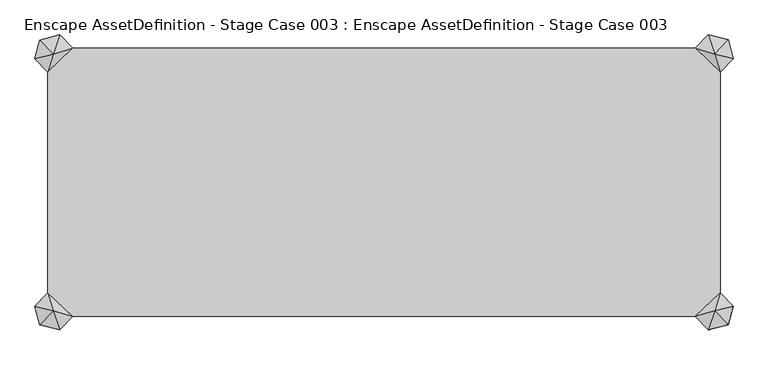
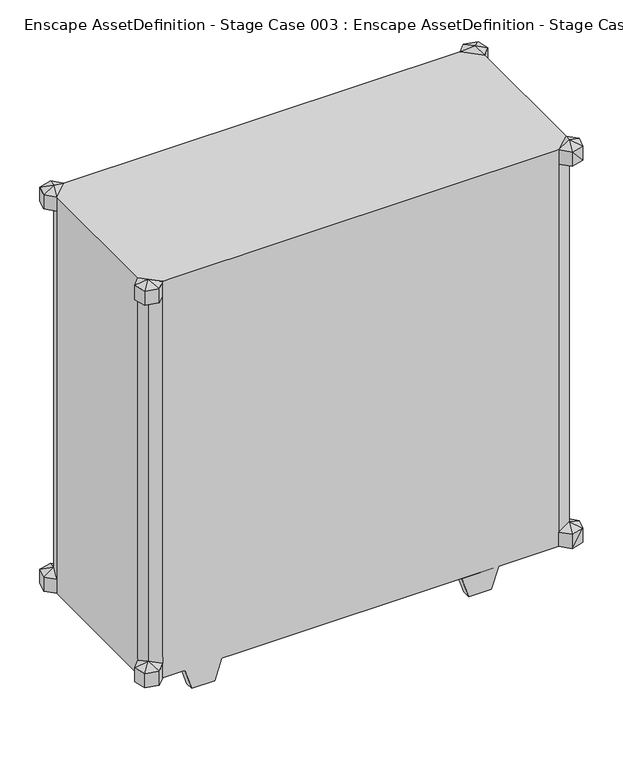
"""IFC4 building model written with IfcOpenShell, lengths in millimetres: geographic element geometry, Enscape AssetDefinition - Stage Case 003 : Enscape AssetDefinition - Stage Case 003."""

from ifc_helpers import new_model, si_unit, origin, place, context, project, spatial, triangles, source, transform, mapped, element, save


def enscape_assetdefinition_stage_case_003_enscape_c577ca59(model_context):
    return source(origin(), model_context, "Body", "Tessellation", [
        triangles([(476.9099888, 205.5609993, 105.3930037), (506.3969971, 197.0130109, 94.9169989), (496.3540054, 226.1009883, 105.3930037), (526.6449981, 218.4030025, 105.4460074), (534.1320047, 190.3380004, 105.3930037), (506.4319877, 196.9809998, 151.4009967), (496.3540054, 226.1009883, 140.7749919), (526.6810061, 218.3700103, 140.8289948), (534.1320047, 190.3380004, 140.7749919), (514.6880244, 169.7979933, 105.3930037), (514.6880244, 169.7979933, 140.7749919), (514.6880244, 169.7979933, 1066.7860474), (534.1320047, 190.3380004, 1066.7860474), (506.4319877, 196.9809998, 1056.1599518), (476.9099888, 205.5609993, 140.7749919), (526.6449981, 218.4030025, 1102.1150682), (526.6810061, 218.3700103, 1066.7320536), (496.3540054, 226.1009883, 1066.7860474), (476.9099888, 205.5609993, 1066.7860474), (534.1320047, 190.3380004, 1102.167972), (506.3969971, 197.0130109, 1112.6439314), (514.6880244, 169.7979933, 1102.167972), (476.9099888, 205.5609993, 1102.167972), (496.3540054, 226.1009883, 1102.167972), (534.1320047, -185.4789947, 1102.167972), (514.6880244, -164.9390057, 1102.167972), (514.6880244, -164.9390057, 1066.7860474), (534.1320047, -185.4789947, 1066.7860474), (506.4219955, -192.0430017, 1055.5050499), (506.4219955, -192.0430017, 152.0559894), (496.3540054, -221.2420007, 1102.167972), (496.3540054, -221.2420007, 1066.7860474), (526.6699965, -213.4319942, 1066.8439653), (526.6339886, -213.399002, 1102.22698), (506.3870049, -192.0109906, 1111.9890295), (476.9099888, -200.7019936, 1102.167972), (476.9099888, -200.7019936, 1066.7860474), (-465.7559821, -200.7019936, 1066.7860474), (-485.1999988, -221.2420007, 1102.167972), (-485.1999988, -221.2420007, 1066.7860474), (-465.7559821, -200.7019936, 1102.167972), (-515.6360407, -213.4120099, 1102.22698), (-515.6009774, -213.4440029, 1066.8439653), (-495.3519954, -192.0550105, 1055.5050499), (-522.9779981, -185.4789947, 1066.7860474), (-495.3880033, -192.0220001, 1112.2690269), (-522.9779981, -185.4789947, 1102.167972), (-503.5340178, -164.9390057, 1102.167972), (-503.5340178, 169.7979933, 1102.167972), (-503.5340178, -164.9390057, 1066.7860474), (-503.5340178, -164.9390057, 140.7749919), (-495.3519954, -192.0550105, 152.0559894), (-503.5340178, 169.7979933, 140.7749919), (-503.5340178, -164.9390057, 105.3930037), (-522.9779981, -185.4789947, 140.7749919), (-515.6009774, -213.4440029, 140.7170013), (-522.9779981, -185.4789947, 105.3930037), (-485.1999988, -221.2420007, 105.3930037), (-515.6360407, -213.4120099, 105.3339957), (-465.7559821, -200.7019936, 140.7749919), (-485.1999988, -221.2420007, 140.7749919), (-495.3880033, -192.0220001, 95.2920033), (-465.7559821, -200.7019936, 105.3930037), (-503.5340178, 169.7979933, 105.3930037), (-495.3779749, 197.0020014, 94.9169989), (-522.9779981, 190.3380004, 105.3930037), (-515.6249949, 218.3899946, 105.4460074), (-515.5900043, 218.3580016, 140.8289948), (-485.1999988, 226.1009883, 105.3930037), (-485.1999988, 226.1009883, 140.7749919), (-522.9779981, 190.3380004, 140.7749919), (-495.3420033, 196.9690092, 151.4009967), (-465.7559821, 205.5609993, 105.3930037), (-465.7559821, 205.5609993, 140.7749919), (-495.3420033, 196.9690092, 1056.1599518), (-485.1999988, 226.1009883, 1066.7860474), (-465.7559821, 205.5609993, 1066.7860474), (-465.7559821, 205.5609993, 1102.167972), (-485.1999988, 226.1009883, 1102.167972), (-515.5900043, 218.3580016, 1066.7320536), (-495.3779749, 197.0020014, 1112.6439314), (-503.5340178, 169.7979933, 1066.7860474), (-522.9779981, 190.3380004, 1102.167972), (-515.6249949, 218.3899946, 1102.1150682), (-522.9779981, 190.3380004, 1066.7860474), (476.9099888, -200.7019936, 105.3930037), (476.9099888, -200.7019936, 140.7749919), (496.3540054, -221.2420007, 105.3930037), (496.3540054, -221.2420007, 140.7749919), (514.6880244, -164.9390057, 140.7749919), (514.6880244, -164.9390057, 105.3930037), (534.1320047, -185.4789947, 105.3930037), (506.3870049, -192.0109906, 95.5720007), (526.6339886, -213.399002, 105.3339957), (526.6699965, -213.4319942, 140.7170013), (534.1320047, -185.4789947, 140.7749919), (285.2329894, 112.1369961, 49.904998), (302.0310193, 112.0740003, -1.794), (373.1879768, 111.8099994, 49.904998), (285.2860022, 132.0729976, 49.904998), (302.0829783, 132.010992, -1.794), (356.3899833, 111.872005, -1.794), (373.2400085, 131.7459918, 49.904998), (356.442996, 131.8079975, -1.794), (-285.2329894, 112.1369961, 49.904998), (-373.1879768, 111.8099994, 49.904998), (-356.442996, 131.8079975, -1.794), (-356.3899833, 111.872005, -1.794), (-373.2400085, 131.7459918, 49.904998), (-302.0310193, 112.0740003, -1.794), (-302.0829783, 132.010992, -1.794), (-285.2860022, 132.0729976, 49.904998), (373.2400085, -131.7459918, 49.904998), (285.2329894, -112.1369961, 49.904998), (356.3899833, -111.872005, -1.794), (302.0310193, -112.0740003, -1.794), (302.0829783, -132.010992, -1.794), (285.2860022, -132.0729976, 49.904998), (356.442996, -131.8079975, -1.794), (373.1879768, -111.8099994, 49.904998), (-373.2400085, -131.7459918, 49.904998), (-285.2329894, -112.1369961, 49.904998), (-356.3899833, -111.872005, -1.794), (-373.1879768, -111.8099994, 49.904998), (-285.2860022, -132.0729976, 49.904998), (-302.0829783, -132.010992, -1.794), (-356.442996, -131.8079975, -1.794), (-302.0310193, -112.0740003, -1.794)], [[128, 127, 123], [128, 126, 127], [127, 126, 125], [123, 127, 121], [123, 121, 124], [127, 125, 121], [122, 125, 126], [123, 124, 122], [122, 124, 121], [122, 126, 128], [123, 122, 128], [122, 121, 125], [118, 117, 119], [119, 117, 116], [119, 116, 115], [113, 119, 115], [113, 115, 120], [118, 119, 113], [114, 116, 117], [114, 120, 115], [114, 118, 113], [114, 117, 118], [114, 115, 116], [114, 113, 120], [112, 111, 107], [107, 111, 110], [107, 110, 108], [109, 107, 108], [109, 108, 106], [112, 107, 109], [105, 110, 111], [105, 106, 108], [105, 112, 109], [105, 111, 112], [105, 108, 110], [105, 109, 106], [98, 104, 102], [98, 101, 104], [104, 101, 100], [102, 104, 103], [102, 103, 99], [104, 100, 103], [97, 100, 101], [102, 99, 97], [97, 99, 103], [97, 101, 98], [102, 97, 98], [97, 103, 100], [30, 96, 90], [90, 96, 92], [30, 95, 96], [92, 96, 95], [92, 95, 94], [30, 87, 89], [30, 89, 95], [88, 94, 95], [88, 95, 89], [93, 94, 88], [93, 92, 94], [93, 91, 92], [90, 92, 91], [86, 88, 89], [86, 89, 87], [93, 88, 86], [60, 86, 87], [86, 91, 93], [85, 75, 82], [85, 80, 75], [84, 80, 85], [83, 85, 82], [84, 85, 83], [83, 82, 49], [81, 84, 83], [81, 83, 49], [79, 84, 81], [76, 80, 84], [75, 80, 76], [76, 84, 79], [78, 49, 41], [76, 79, 78], [79, 81, 78], [81, 49, 78], [76, 78, 77], [75, 76, 77], [78, 19, 77], [19, 15, 74], [19, 74, 77], [15, 73, 74], [77, 74, 72], [77, 72, 75], [72, 82, 75], [72, 53, 82], [72, 71, 53], [72, 68, 71], [72, 74, 70], [73, 70, 74], [72, 70, 68], [73, 69, 70], [67, 68, 70], [67, 70, 69], [67, 71, 68], [53, 71, 66], [67, 66, 71], [65, 67, 69], [65, 66, 67], [65, 69, 73], [65, 64, 66], [53, 66, 64], [73, 64, 65], [60, 63, 86], [64, 73, 63], [53, 64, 54], [63, 54, 64], [63, 62, 54], [62, 57, 54], [62, 59, 57], [62, 63, 58], [62, 58, 59], [60, 58, 63], [60, 61, 58], [56, 59, 58], [56, 58, 61], [56, 57, 59], [54, 57, 55], [56, 55, 57], [82, 53, 51], [53, 54, 51], [54, 55, 51], [52, 51, 55], [52, 56, 61], [52, 55, 56], [52, 61, 60], [44, 52, 60], [50, 51, 52], [82, 51, 50], [50, 52, 44], [49, 48, 41], [48, 49, 82], [48, 82, 50], [45, 48, 50], [44, 45, 50], [45, 47, 48], [47, 46, 48], [41, 48, 46], [47, 42, 46], [43, 42, 47], [44, 43, 45], [43, 47, 45], [40, 43, 44], [46, 42, 39], [39, 42, 43], [46, 39, 41], [39, 43, 40], [38, 60, 87], [39, 40, 38], [40, 44, 38], [44, 60, 38], [39, 38, 41], [36, 41, 38], [38, 87, 37], [36, 38, 37], [29, 37, 87], [29, 87, 30], [29, 32, 37], [32, 36, 37], [32, 31, 36], [31, 35, 36], [31, 34, 35], [31, 32, 33], [29, 33, 32], [31, 33, 34], [28, 33, 29], [30, 90, 27], [28, 29, 27], [30, 27, 29], [33, 28, 25], [35, 34, 25], [25, 28, 27], [33, 25, 34], [22, 26, 27], [35, 26, 36], [35, 25, 26], [25, 27, 26], [36, 26, 23], [41, 36, 23], [23, 78, 41], [78, 23, 19], [26, 22, 23], [24, 19, 23], [21, 24, 23], [23, 22, 21], [20, 21, 22], [20, 16, 21], [21, 16, 24], [24, 18, 19], [16, 18, 24], [16, 17, 18], [13, 20, 22], [13, 17, 16], [13, 16, 20], [18, 17, 14], [14, 17, 13], [18, 14, 19], [14, 15, 19], [14, 13, 12], [13, 22, 12], [22, 27, 12], [14, 6, 15], [12, 6, 14], [27, 90, 11], [12, 11, 6], [27, 11, 12], [90, 91, 10], [90, 10, 11], [2, 5, 10], [10, 5, 9], [6, 11, 9], [10, 9, 11], [6, 9, 8], [6, 8, 7], [6, 7, 15], [4, 8, 9], [2, 4, 5], [4, 9, 5], [4, 7, 8], [15, 7, 3], [4, 3, 7], [2, 3, 4], [2, 1, 3], [15, 1, 73], [86, 63, 1], [91, 86, 1], [1, 10, 91], [73, 1, 63], [15, 3, 1], [1, 2, 10]]),
    ])


if __name__ == "__main__":
    model = new_model("IFC4")
    model_context = context("Model", 3, world=origin())
    ifc_project = project(units=[si_unit("LENGTHUNIT", "METRE", prefix="MILLI")], contexts=[model_context])
    site = spatial("IfcSite", under=ifc_project)
    building = spatial("IfcBuilding", under=site)
    placement = place(None, origin())
    enscape_assetdefinition_stage_case_003_enscape_shape = enscape_assetdefinition_stage_case_003_enscape_c577ca59(model_context)
    element("IfcGeographicElement", 1, ObjectType="Enscape AssetDefinition - Stage Case 003 : Enscape AssetDefinition - Stage Case 003", at=placement, inside=building, context=model_context, shape_type="MappedRepresentation", body=[
        mapped(enscape_assetdefinition_stage_case_003_enscape_shape, transform((0.0, 0.0, 0.0), x_axis=(1.0, 0.0, 0.0), y_axis=(0.0, 1.0, 0.0), z_axis=(0.0, 0.0, 1.0))),
    ])
    save(model, "model.ifc")
